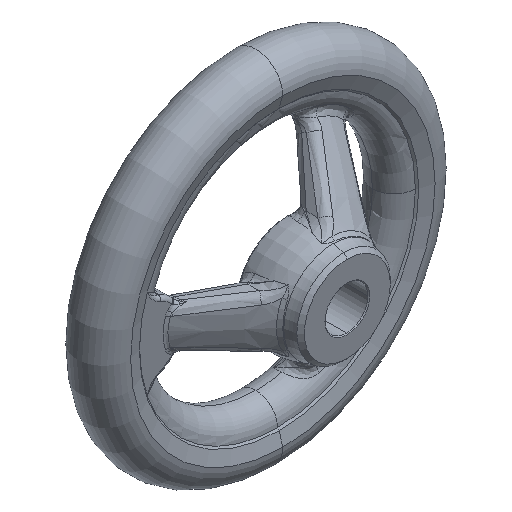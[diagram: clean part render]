
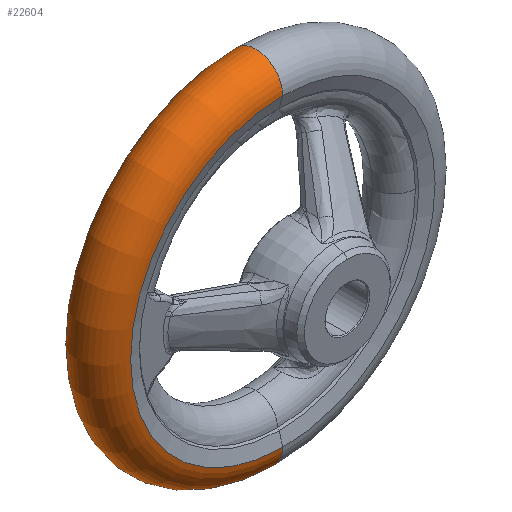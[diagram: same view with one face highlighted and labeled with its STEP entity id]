
A CAD part, isometric view. The second image highlights one B-rep face of the part: STEP entity #22604.
In plain terms, the highlighted toroidal (fillet/blend) face has major radius 42.5 mm and minor radius 7.5 mm.
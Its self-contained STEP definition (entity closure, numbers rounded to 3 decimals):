
#10182 = CIRCLE ( 'NONE', #10225, 7.5 ) ;
#10206 = DIRECTION ( 'NONE',  ( 0., 0., -1. ) ) ;
#10207 = DIRECTION ( 'NONE',  ( 0., -1., 0. ) ) ;
#10208 = CARTESIAN_POINT ( 'NONE',  ( 0., 18., 0. ) ) ;
#10209 = AXIS2_PLACEMENT_3D ( 'NONE', #10208, #10207, #10206 ) ;
#10210 = CIRCLE ( 'NONE', #10209, 42.5 ) ;
#10211 = CARTESIAN_POINT ( 'NONE',  ( 0., 33., 42.5 ) ) ;
#10215 = DIRECTION ( 'NONE',  ( 0., 0., 1. ) ) ;
#10216 = DIRECTION ( 'NONE',  ( -1., 0., 0. ) ) ;
#10217 = CARTESIAN_POINT ( 'NONE',  ( 0., 25.5, -42.5 ) ) ;
#10225 = AXIS2_PLACEMENT_3D ( 'NONE', #10217, #10216, #10215 ) ;
#10245 = DIRECTION ( 'NONE',  ( 0., 0., -1. ) ) ;
#10246 = DIRECTION ( 'NONE',  ( 0., -1., 0. ) ) ;
#10247 = CARTESIAN_POINT ( 'NONE',  ( 0., 33., 0. ) ) ;
#10248 = AXIS2_PLACEMENT_3D ( 'NONE', #10247, #10246, #10245 ) ;
#10253 = CIRCLE ( 'NONE', #10248, 42.5 ) ;
#10301 = CIRCLE ( 'NONE', #10356, 7.5 ) ;
#10308 = CARTESIAN_POINT ( 'NONE',  ( 0., 18., 42.5 ) ) ;
#10315 = CARTESIAN_POINT ( 'NONE',  ( 0., 18., -42.5 ) ) ;
#10352 = DIRECTION ( 'NONE',  ( 0., 0., -1. ) ) ;
#10353 = DIRECTION ( 'NONE',  ( 1., 0., 0. ) ) ;
#10354 = CARTESIAN_POINT ( 'NONE',  ( 0., 25.5, 42.5 ) ) ;
#10356 = AXIS2_PLACEMENT_3D ( 'NONE', #10354, #10353, #10352 ) ;
#10462 = CARTESIAN_POINT ( 'NONE',  ( 0., 33., -42.5 ) ) ;
#11766 = EDGE_CURVE ( 'NONE', #11886, #11824, #10182, .T. ) ;
#11769 = EDGE_CURVE ( 'NONE', #11825, #11824, #10210, .T. ) ;
#11787 = EDGE_CURVE ( 'NONE', #11788, #11886, #10253, .T. ) ;
#11788 = VERTEX_POINT ( 'NONE', #10211 ) ;
#11824 = VERTEX_POINT ( 'NONE', #10315 ) ;
#11825 = VERTEX_POINT ( 'NONE', #10308 ) ;
#11832 = EDGE_CURVE ( 'NONE', #11788, #11825, #10301, .T. ) ;
#11886 = VERTEX_POINT ( 'NONE', #10462 ) ;
#21152 = TOROIDAL_SURFACE ( 'NONE', #21161, 42.5, 7.5 ) ;
#21161 = AXIS2_PLACEMENT_3D ( 'NONE', #21167, #21166, #21220 ) ;
#21165 = FACE_OUTER_BOUND ( 'NONE', #22463, .T. ) ;
#21166 = DIRECTION ( 'NONE',  ( 0., -1., 0. ) ) ;
#21167 = CARTESIAN_POINT ( 'NONE',  ( 0., 25.5, 0. ) ) ;
#21220 = DIRECTION ( 'NONE',  ( 0., 0., -1. ) ) ;
#22463 = EDGE_LOOP ( 'NONE', ( #22572, #22633, #22609, #22632 ) ) ;
#22572 = ORIENTED_EDGE ( 'NONE', *, *, #11832, .F. ) ;
#22604 = ADVANCED_FACE ( 'NONE', ( #21165 ), #21152, .T. ) ;
#22609 = ORIENTED_EDGE ( 'NONE', *, *, #11766, .T. ) ;
#22632 = ORIENTED_EDGE ( 'NONE', *, *, #11769, .F. ) ;
#22633 = ORIENTED_EDGE ( 'NONE', *, *, #11787, .T. ) ;
